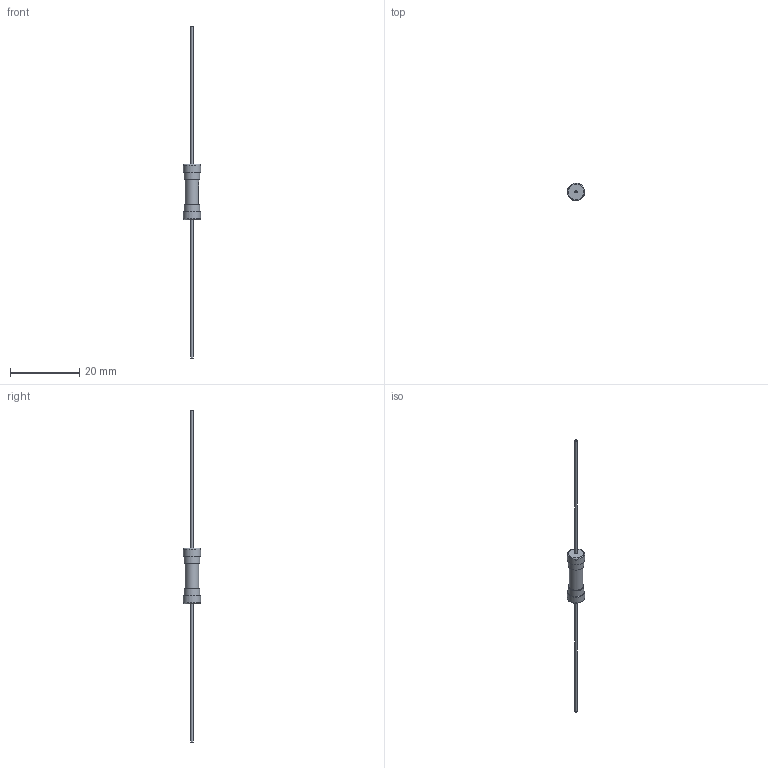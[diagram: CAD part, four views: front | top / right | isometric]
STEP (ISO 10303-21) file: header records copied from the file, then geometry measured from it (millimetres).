
FILE_DESCRIPTION(/* description */ (''),/* implementation_level */ '2;1');
FILE_NAME(/* name */ 'C:\Users\Hani\Desktop\work\FSE\FSE-P.stp',/* time_stamp */ '2022-01-30T09:57:18-08:00',/* author */ ('Hani'),/* organization */ (''),/* preprocessor_version */ 'ST-DEVELOPER v17',/* originating_system */ 'Autodesk Inventor 2019',/* authorisation */ '');
FILE_SCHEMA (('AUTOMOTIVE_DESIGN { 1 0 10303 214 3 1 1 }'));
Length unit declared in the file: inch
Products named in the file (3): FSE-P; FSD; terminal_wire_5mm-40L
Assembly tree (3 placements, depth 2):
  FSE-P
    FSD
    terminal_wire_5mm-40L  x2
Bounding box: 5 x 5 x 96.02 mm (x, y, z)
Volume: 263.7 mm3; surface area: 583.1 mm2
Topology: 3 solids, 3 shells, 162 faces, 438 edges, 292 vertices
Faces by surface type: plane 69, bspline 67, cylinder 22, torus 4
Full cylindrical faces by diameter (mm): 0.6 x2, 3.886 x1, 4.5 x4, 5 x2
Entity records: 6466 total; most frequent: CARTESIAN_POINT 2781, ORIENTED_EDGE 850, DIRECTION 563, EDGE_CURVE 425, VERTEX_POINT 283, LINE 191, VECTOR 191, AXIS2_PLACEMENT_3D 186
